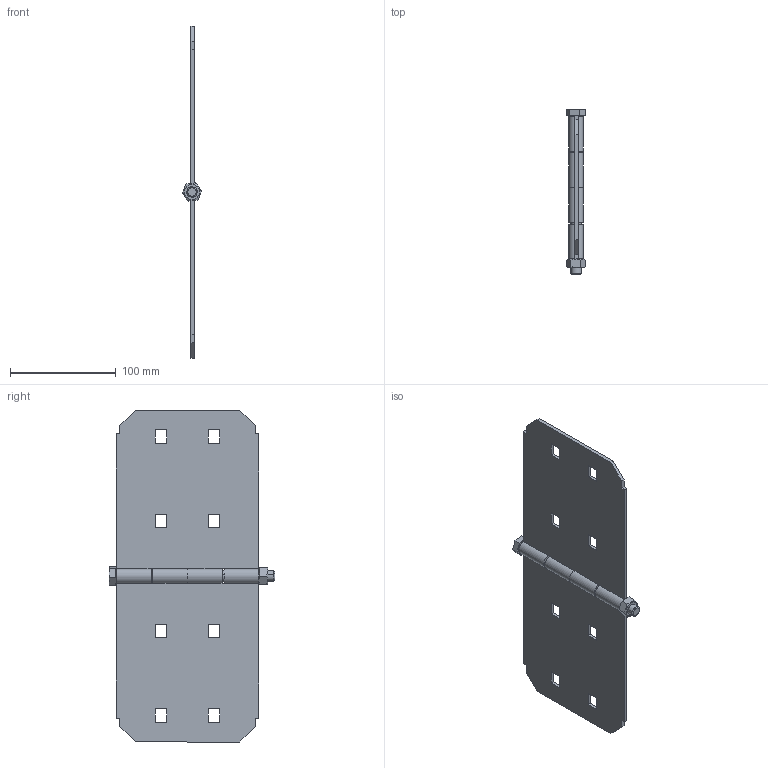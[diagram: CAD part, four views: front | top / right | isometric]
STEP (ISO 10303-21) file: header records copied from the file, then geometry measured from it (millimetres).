
FILE_DESCRIPTION (( 'STEP AP203' ), '1' );
FILE_NAME ('N20C HS.STEP', '2024-09-04T22:55:22', ( '' ), ( '' ), 'SwSTEP 2.0', 'SolidWorks 2023', '' );
FILE_SCHEMA (( 'CONFIG_CONTROL_DESIGN' ));
Length unit declared in the file: millimetre
Products named in the file (4): Hex bolt_Hex bolt M10x150; ISO 4032 - M10; N20C HS; N20CHS-FR70HS common splice plate_N2S<As Machined>
Assembly tree (4 placements, depth 2):
  N20C HS
    N20CHS-FR70HS common splice plate_N2S<As Machined>  x2
    Hex bolt_Hex bolt M10x150
    ISO 4032 - M10
Bounding box: 18.47 x 156.6 x 314 mm (x, y, z)
Volume: 140339.4 mm3; surface area: 98695.6 mm2
Topology: 8 solids, 8 shells, 132 faces, 330 edges, 216 vertices
Faces by surface type: plane 94, cylinder 22, cone 10, torus 6
Entity records: 3120 total; most frequent: CARTESIAN_POINT 643, ORIENTED_EDGE 420, DIRECTION 412, EDGE_CURVE 210, VECTOR 138, LINE 138, AXIS2_PLACEMENT_3D 137, VERTEX_POINT 136
